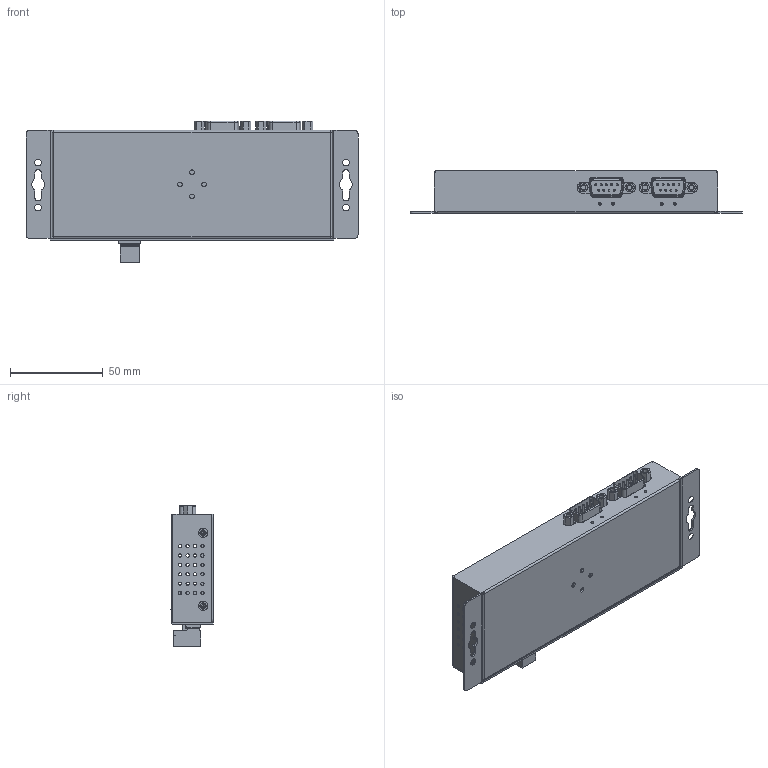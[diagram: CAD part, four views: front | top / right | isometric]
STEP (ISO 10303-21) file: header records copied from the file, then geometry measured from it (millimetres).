
FILE_DESCRIPTION(/* description */ (''),/* implementation_level */ '2;1');
FILE_NAME(/* name */ 'C:/Users/Leo/Desktop/AA CoolGear CADs/MSD-SRP2XM-PRO/MSD-SRP2XM-PRO Model3D LPV1.step',/* time_stamp */ '2021-07-09T13:29:18-04:00',/* author */ (''),/* organization */ (''),/* preprocessor_version */ 'ST-DEVELOPER v18.1',/* originating_system */ 'Autodesk Translation Framework v10.9.0.1377',/* authorisation */ '');
FILE_SCHEMA (('AUTOMOTIVE_DESIGN { 1 0 10303 214 3 1 1 }'));
Products named in the file (24): USBG-4NET; Component1; 93090A571; Component4; LAN connector v1; HR911105A; Connector Volts Black plastic v2; Component1 (1); Component2; Component3 (1); Component4 (1); Connector green Phoenix 2 holes female 5.08 v1; Bolt M3X0.5 100Angle 5mmHead.5 China 120ang METRIC 18-8 SS FLAT HEAD 
PHIL MACHINE SCREW v2; LED 3mm v4 (1); 3mm_LED (1); led_energy (1) (1); led_energy (2); led_pin.1.1.1 (1) (1); led_pin.1.1.1 (2); led_pin.2.1 (1) (1); led_pin.2.1 (2); Connector green phoenix 2pines male 5.08 v6; Serial Port v1; Component53
Assembly tree (30 placements, depth 5):
  USBG-4NET
    Component1
    93090A571  x4
    Component4
    LAN connector v1
      HR911105A
    Connector Volts Black plastic v2
      Component1 (1)
      Component2
      Component3 (1)
      Component4 (1)
    Connector green Phoenix 2 holes female 5.08 v1
    Bolt M3X0.5 100Angle 5mmHead.5 China 120ang METRIC 18-8 SS FLAT HEAD 
PHIL MACHINE SCREW v2  x4
    LED 3mm v4 (1)
      3mm_LED (1)
        led_energy (1) (1)
          led_energy (2)
        led_pin.1.1.1 (1) (1)
          led_pin.1.1.1 (2)
        led_pin.2.1 (1) (1)
          led_pin.2.1 (2)
    Connector green phoenix 2pines male 5.08 v6
    Serial Port v1  x2
    Component53
Bounding box: 178.75 x 23.06 x 76.27 mm (x, y, z)
Volume: 55180.4 mm3; surface area: 82965 mm2
Topology: 4 solids, 4 shells, 1758 faces, 4713 edges, 3062 vertices
Faces by surface type: plane 1107, cylinder 403, cone 108, bspline 97, torus 22, sphere 21
Full cylindrical faces by diameter (mm): 0.8 x8, 1 x22, 1.5 x4, 1.6 x2, 1.679 x1, 1.75 x48, 2.16 x1, 2.35 x16, 2.529 x4, 2.6 x4, 2.8 x4, 2.998 x1, 3 x24, 3.2 x4, 3.35 x1, 3.54 x1, 3.643 x1, 3.86 x2, 4.2 x4, 5.04 x2, 6 x1, 8.5 x1
Entity records: 69827 total; most frequent: CARTESIAN_POINT 25616, ORIENTED_EDGE 9332, DIRECTION 8449, EDGE_CURVE 4666, LINE 3225, VECTOR 3225, VERTEX_POINT 3062, AXIS2_PLACEMENT_3D 2612
